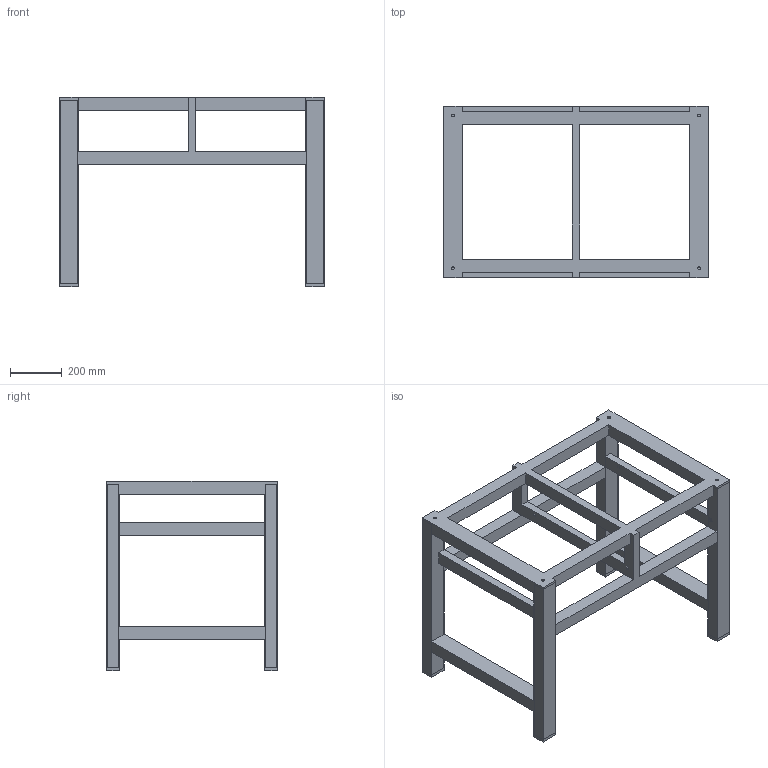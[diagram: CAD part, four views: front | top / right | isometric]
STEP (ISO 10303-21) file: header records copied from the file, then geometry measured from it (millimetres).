
FILE_DESCRIPTION(/* description */ ('Unknown'),/* implementation_level */ '2;1');
FILE_NAME(/* name */ '工作台架',/* time_stamp */ '2025-12-29T14:47:38+08:00',/* author */ ('Unknown'),/* organization */ ('Unknown'),/* preprocessor_version */ 'ST-DEVELOPER v20',/* originating_system */ 'Solid Edge',/* authorisation */ 'Unknown');
FILE_SCHEMA (('AUTOMOTIVE_DESIGN {1 0 10303 214 3 1 1}'));
Length unit declared in the file: millimetre
Products named in the file (1): 馱釬l
Bounding box: 1020 x 660 x 730 mm (x, y, z)
Volume: 22060208.2 mm3; surface area: 2977738.2 mm2
Topology: 1 solids, 1 shells, 122 faces, 370 edges, 244 vertices
Faces by surface type: plane 110, cylinder 12
Full cylindrical faces by diameter (mm): 10.106 x8, 13.835 x4
Entity records: 4928 total; most frequent: CARTESIAN_POINT 717, ORIENTED_EDGE 708, DIRECTION 620, EDGE_CURVE 354, LINE 334, VECTOR 334, VERTEX_POINT 240, EDGE_LOOP 166
